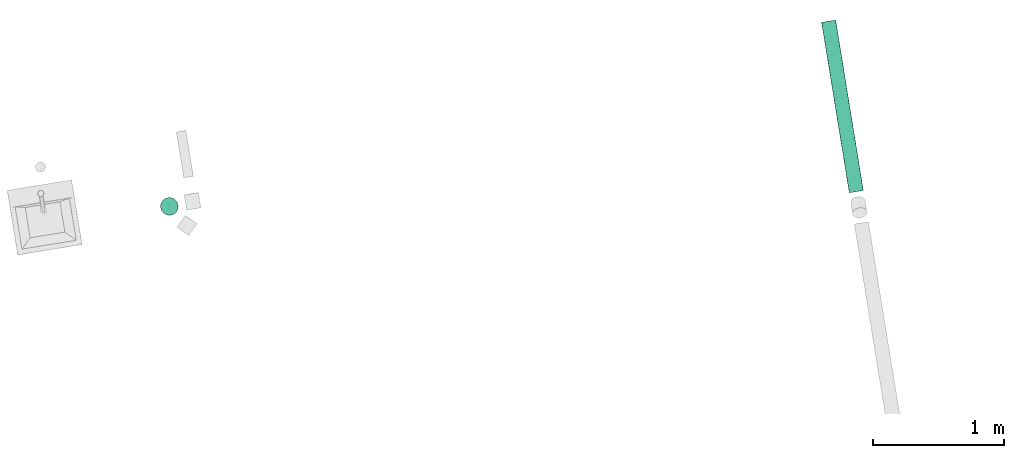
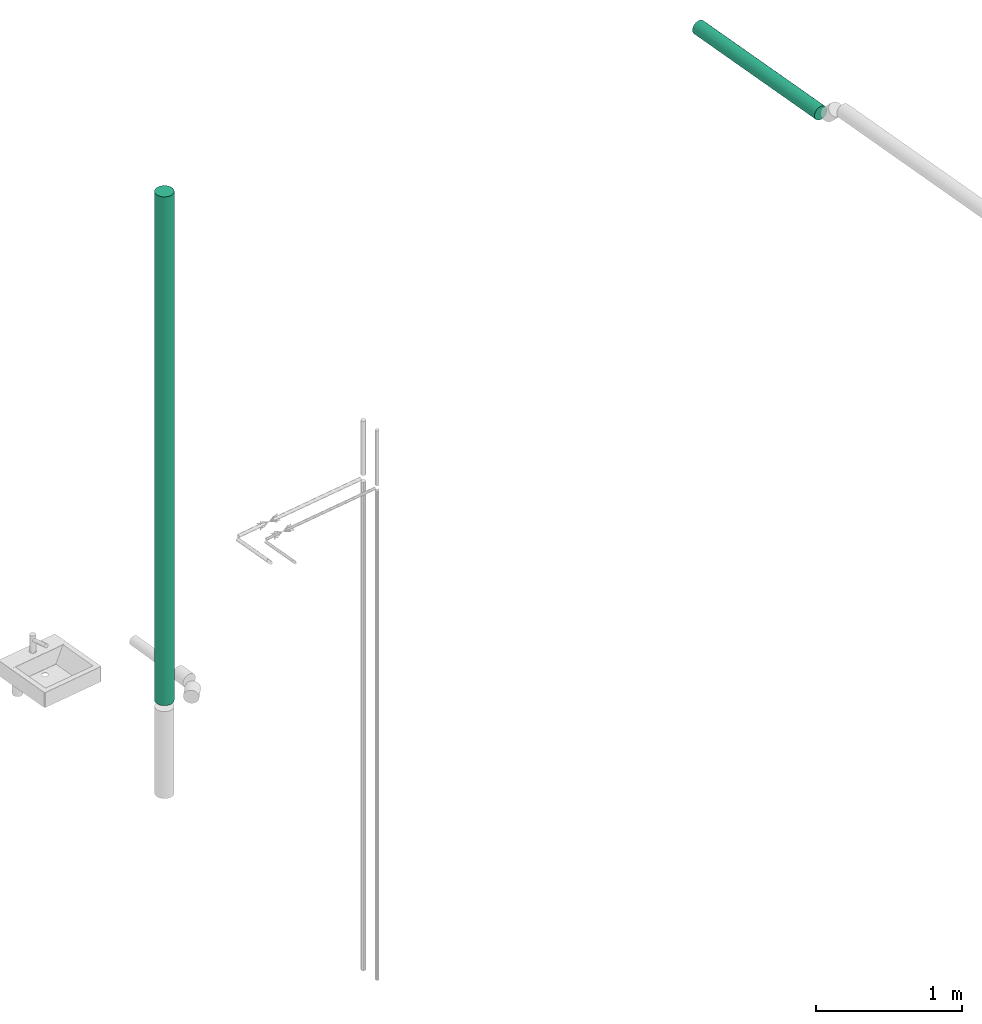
# One storey, part 9 of 10: 2 flow segments.
"""IFC2X3 building model written with IfcOpenShell, lengths in millimetres."""

from ifc_helpers import new_model, entity, si_unit, converted_unit, derived_unit, direction, frame, origin, origin_with_axes, place, context, subcontext, project, spatial, faceted_brep, type_object, element, save


model = new_model("IFC2X3")

# Units and contexts
model_context = context("Model", 3, precision=0.01, world=origin(), true_north=direction((6.12323399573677e-17, 1.0)))
plan_context = context("Plan", 3, precision=1e-05, world=origin_with_axes())
body_context = subcontext(model_context, "Body", "Model", "MODEL_VIEW")
ifc_project = project(units=[converted_unit("PLANEANGLEUNIT", "DEGREE", entity("IfcPositiveLengthMeasure", 0.0174532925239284), si_unit("PLANEANGLEUNIT", "RADIAN"), dimensions=[0, 0, 0, 0, 0, 0, 0]), si_unit("AREAUNIT", "SQUARE_METRE"), si_unit("LENGTHUNIT", "METRE", prefix="MILLI"), si_unit("MASSUNIT", "GRAM", prefix="KILO"), si_unit("POWERUNIT", "WATT"), si_unit("PRESSUREUNIT", "PASCAL", prefix="KILO"), si_unit("FORCEUNIT", "NEWTON", prefix="KILO"), si_unit("ELECTRICVOLTAGEUNIT", "VOLT"), si_unit("ELECTRICCURRENTUNIT", "AMPERE"), si_unit("THERMODYNAMICTEMPERATUREUNIT", "DEGREE_CELSIUS"), si_unit("TIMEUNIT", "SECOND"), si_unit("VOLUMEUNIT", "CUBIC_METRE"), derived_unit("LINEARVELOCITYUNIT", [(si_unit("LENGTHUNIT", "METRE"), 1), (si_unit("TIMEUNIT", "SECOND"), -1)]), derived_unit("VOLUMETRICFLOWRATEUNIT", [(si_unit("VOLUMEUNIT", "CUBIC_METRE"), 1), (si_unit("TIMEUNIT", "SECOND"), -1)]), derived_unit("THERMALTRANSMITTANCEUNIT", [(si_unit("POWERUNIT", "WATT"), 1), (si_unit("THERMODYNAMICTEMPERATUREUNIT", "KELVIN"), -1), (si_unit("AREAUNIT", "SQUARE_METRE"), -1)]), derived_unit("SOUNDPRESSUREUNIT", [(si_unit("PRESSUREUNIT", "PASCAL"), 1)])], contexts=[model_context, plan_context])

# Site, building, storey
site_placement = place(None, frame((-0.000710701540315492, 0.00438415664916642, 0.0), z_axis=(0.0, 0.0, 1.0), x_axis=(-0.160236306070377, 0.987078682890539, 0.0)))
site = spatial("IfcSite", under=ifc_project, at=site_placement, Name="Default", CompositionType="ELEMENT")
building_placement = place(site_placement, origin_with_axes())
building = spatial("IfcBuilding", under=site, at=building_placement, CompositionType="ELEMENT")
storey_placement = place(building_placement, frame((0.0, 0.0, 50999.9999999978), z_axis=(0.0, 0.0, 1.0), x_axis=(1.0, 0.0, 0.0)))
storey = spatial("IfcBuildingStorey", under=building, at=storey_placement, Name="Nivå D", CompositionType="ELEMENT", Elevation=50999.9999999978)

# Flow segments
pipe_segment_type_1 = type_object("IfcPipeSegmentType", Name="Pipe Types:MA", PredefinedType="NOTDEFINED")
flow_segment_1_placement = place(storey_placement, origin_with_axes())
element("IfcFlowSegment", 1, at=flow_segment_1_placement, inside=storey, type_object=pipe_segment_type_1, Name="Pipe Types:MA", ObjectType="Pipe Types:MA", context=body_context, shape_type="Brep", body=[
    faceted_brep([(779489.830479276, -594796.800735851, 4200.0), (779490.855955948, -594785.079483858, 4200.0), (779490.855955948, -594785.079483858, -39.9999999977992), (779489.830479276, -594796.800735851, -39.9999999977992), (779489.830479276, -594773.358231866, 4200.0), (779489.830479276, -594773.358231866, -39.9999999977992), (779486.785207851, -594761.993124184, 4200.0), (779486.785207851, -594761.993124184, -39.9999999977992), (779481.812670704, -594751.329483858, 4200.0), (779481.812670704, -594751.329483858, -39.9999999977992), (779475.063955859, -594741.691320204, 4200.0), (779475.063955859, -594741.691320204, -39.9999999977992), (779466.744119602, -594733.371483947, 4200.0), (779466.744119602, -594733.371483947, -39.9999999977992), (779457.105955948, -594726.622769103, 4200.0), (779457.105955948, -594726.622769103, -39.9999999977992), (779446.442315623, -594721.650231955, 4200.0), (779446.442315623, -594721.650231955, -39.9999999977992), (779435.077207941, -594718.60496053, 4200.0), (779435.077207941, -594718.60496053, -39.9999999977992), (779423.355955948, -594717.579483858, 4200.0), (779423.355955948, -594717.579483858, -39.9999999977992), (779411.634703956, -594718.60496053, 4200.0), (779411.634703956, -594718.60496053, -39.9999999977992), (779400.269596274, -594721.650231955, 4200.0), (779400.269596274, -594721.650231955, -39.9999999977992), (779389.605955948, -594726.622769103, 4200.0), (779389.605955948, -594726.622769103, -39.9999999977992), (779379.967792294, -594733.371483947, 4200.0), (779379.967792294, -594733.371483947, -39.9999999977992), (779371.647956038, -594741.691320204, 4200.0), (779371.647956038, -594741.691320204, -39.9999999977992), (779364.899241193, -594751.329483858, 4200.0), (779364.899241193, -594751.329483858, -39.9999999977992), (779359.926704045, -594761.993124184, 4200.0), (779359.926704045, -594761.993124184, -39.9999999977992), (779356.88143262, -594773.358231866, 4200.0), (779356.88143262, -594773.358231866, -39.9999999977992), (779355.855955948, -594785.079483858, 4200.0), (779355.855955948, -594785.079483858, -39.9999999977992), (779356.88143262, -594796.80073585, 4200.0), (779356.88143262, -594796.800735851, -39.9999999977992), (779359.926704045, -594808.165843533, 4200.0), (779359.926704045, -594808.165843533, -39.9999999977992), (779364.899241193, -594818.829483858, 4200.0), (779364.899241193, -594818.829483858, -39.9999999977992), (779371.647956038, -594828.467647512, 4200.0), (779371.647956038, -594828.467647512, -39.9999999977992), (779379.967792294, -594836.787483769, 4200.0), (779379.967792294, -594836.787483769, -39.9999999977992), (779389.605955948, -594843.536198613, 4200.0), (779389.605955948, -594843.536198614, -39.9999999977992), (779400.269596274, -594848.508735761, 4200.0), (779400.269596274, -594848.508735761, -39.9999999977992), (779411.634703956, -594851.554007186, 4200.0), (779411.634703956, -594851.554007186, -39.9999999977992), (779423.355955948, -594852.579483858, 4200.0), (779423.355955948, -594852.579483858, -39.9999999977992), (779435.077207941, -594851.554007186, 4200.0), (779435.077207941, -594851.554007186, -39.9999999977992), (779446.442315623, -594848.508735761, 4200.0), (779446.442315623, -594848.508735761, -39.9999999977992), (779457.105955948, -594843.536198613, 4200.0), (779457.105955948, -594843.536198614, -39.9999999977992), (779466.744119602, -594836.787483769, 4200.0), (779466.744119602, -594836.787483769, -39.9999999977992), (779475.063955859, -594828.467647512, 4200.0), (779475.063955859, -594828.467647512, -39.9999999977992), (779481.812670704, -594818.829483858, 4200.0), (779481.812670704, -594818.829483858, -39.9999999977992), (779486.785207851, -594808.165843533, 4200.0), (779486.785207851, -594808.165843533, -39.9999999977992)], [[[0, 1, 2, 3]], [[1, 4, 5, 2]], [[4, 6, 7, 5]], [[6, 8, 9, 7]], [[8, 10, 11, 9]], [[10, 12, 13, 11]], [[12, 14, 15, 13]], [[14, 16, 17, 15]], [[16, 18, 19, 17]], [[18, 20, 21, 19]], [[20, 22, 23, 21]], [[22, 24, 25, 23]], [[24, 26, 27, 25]], [[26, 28, 29, 27]], [[28, 30, 31, 29]], [[30, 32, 33, 31]], [[32, 34, 35, 33]], [[34, 36, 37, 35]], [[36, 38, 39, 37]], [[38, 40, 41, 39]], [[40, 42, 43, 41]], [[42, 44, 45, 43]], [[44, 46, 47, 45]], [[46, 48, 49, 47]], [[48, 50, 51, 49]], [[50, 52, 53, 51]], [[52, 54, 55, 53]], [[54, 56, 57, 55]], [[56, 58, 59, 57]], [[58, 60, 61, 59]], [[60, 62, 63, 61]], [[62, 64, 65, 63]], [[64, 66, 67, 65]], [[66, 68, 69, 67]], [[68, 70, 71, 69]], [[70, 0, 3, 71]], [[3, 2, 5, 7, 9, 11, 13, 15, 17, 19, 21, 23, 25, 27, 29, 31, 33, 35, 37, 39, 41, 43, 45, 47, 49, 51, 53, 55, 57, 59, 61, 63, 65, 67, 69, 71]], [[70, 68, 66, 64, 62, 60, 58, 56, 54, 52, 50, 48, 46, 44, 42, 40, 38, 36, 34, 32, 30, 28, 26, 24, 22, 20, 18, 16, 14, 12, 10, 8, 6, 4, 1, 0]]], orient=[[False], [False], [False], [False], [False], [False], [False], [False], [False], [False], [False], [False], [False], [False], [False], [False], [False], [False], [False], [False], [False], [False], [False], [False], [False], [False], [False], [False], [False], [False], [False], [False], [False], [False], [False], [False], [False], [False]]),
])
pipe_segment_type_2 = type_object("IfcPipeSegmentType", Name="Pipe Types:Rustfrie stålrør", PredefinedType="NOTDEFINED")
flow_segment_2_placement = place(storey_placement, origin_with_axes())
element("IfcFlowSegment", 2, at=flow_segment_2_placement, inside=storey, type_object=pipe_segment_type_2, Name="Pipe Types:Rustfrie stålrør", ObjectType="Pipe Types:Rustfrie stålrør", context=body_context, shape_type="Brep", body=[
    faceted_brep([(780012.619644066, -599919.528306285, 2940.4493502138), (780012.619644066, -599918.692732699, 2950.0), (778695.132039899, -599918.692732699, 2950.0), (778695.132039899, -599919.528306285, 2940.4493502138), (780012.619644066, -599919.528306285, 2959.5506497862), (778695.132039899, -599919.528306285, 2959.5506497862), (780012.619644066, -599922.009638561, 2968.8111079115), (778695.132039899, -599922.009638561, 2968.8111079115), (780012.619644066, -599926.061335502, 2977.5000000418), (778695.132039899, -599926.061335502, 2977.5000000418), (780012.619644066, -599931.560288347, 2985.3533185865), (778695.132039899, -599931.560288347, 2985.3533185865), (780012.619644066, -599938.339414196, 2992.13244443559), (778695.132039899, -599938.339414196, 2992.13244443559), (780012.619644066, -599946.192732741, 2997.63139728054), (778695.132039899, -599946.192732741, 2997.63139728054), (780012.619644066, -599954.881624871, 3001.68309422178), (778695.132039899, -599954.881624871, 3001.68309422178), (780012.619644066, -599964.142082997, 3004.164426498), (778695.132039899, -599964.142082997, 3004.164426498), (780012.619644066, -599973.692732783, 3005.0000000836), (778695.132039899, -599973.692732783, 3005.0000000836), (780012.619644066, -599983.243382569, 3004.164426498), (778695.132039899, -599983.243382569, 3004.164426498), (780012.619644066, -599992.503840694, 3001.68309422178), (778695.132039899, -599992.503840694, 3001.68309422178), (780012.619644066, -600001.192732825, 2997.63139728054), (778695.132039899, -600001.192732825, 2997.63139728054), (780012.619644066, -600009.046051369, 2992.13244443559), (778695.132039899, -600009.046051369, 2992.13244443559), (780012.619644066, -600015.825177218, 2985.3533185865), (778695.132039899, -600015.825177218, 2985.3533185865), (780012.619644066, -600021.324130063, 2977.5000000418), (778695.132039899, -600021.324130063, 2977.5000000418), (780012.619644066, -600025.375827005, 2968.8111079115), (778695.132039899, -600025.375827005, 2968.8111079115), (780012.619644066, -600027.857159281, 2959.5506497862), (778695.132039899, -600027.857159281, 2959.5506497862), (780012.619644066, -600028.692732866, 2950.0), (778695.132039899, -600028.692732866, 2950.0), (780012.619644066, -600027.857159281, 2940.4493502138), (778695.132039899, -600027.857159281, 2940.4493502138), (780012.619644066, -600025.375827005, 2931.1888920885), (778695.132039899, -600025.375827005, 2931.1888920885), (780012.619644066, -600021.324130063, 2922.4999999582), (778695.132039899, -600021.324130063, 2922.4999999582), (780012.619644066, -600015.825177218, 2914.6466814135), (778695.132039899, -600015.825177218, 2914.6466814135), (780012.619644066, -600009.046051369, 2907.86755556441), (778695.132039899, -600009.046051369, 2907.86755556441), (780012.619644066, -600001.192732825, 2902.36860271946), (778695.132039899, -600001.192732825, 2902.36860271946), (780012.619644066, -599992.503840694, 2898.31690577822), (778695.132039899, -599992.503840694, 2898.31690577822), (780012.619644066, -599983.243382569, 2895.835573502), (778695.132039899, -599983.243382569, 2895.835573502), (780012.619644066, -599973.692732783, 2894.9999999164), (778695.132039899, -599973.692732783, 2894.9999999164), (780012.619644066, -599964.142082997, 2895.835573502), (778695.132039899, -599964.142082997, 2895.835573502), (780012.619644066, -599954.881624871, 2898.31690577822), (778695.132039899, -599954.881624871, 2898.31690577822), (780012.619644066, -599946.192732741, 2902.36860271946), (778695.132039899, -599946.192732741, 2902.36860271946), (780012.619644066, -599938.339414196, 2907.86755556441), (778695.132039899, -599938.339414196, 2907.86755556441), (780012.619644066, -599931.560288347, 2914.6466814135), (778695.132039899, -599931.560288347, 2914.6466814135), (780012.619644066, -599926.061335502, 2922.4999999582), (778695.132039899, -599926.061335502, 2922.4999999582), (780012.619644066, -599922.009638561, 2931.1888920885), (778695.132039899, -599922.009638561, 2931.1888920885)], [[[0, 1, 2, 3]], [[1, 4, 5, 2]], [[4, 6, 7, 5]], [[6, 8, 9, 7]], [[8, 10, 11, 9]], [[10, 12, 13, 11]], [[12, 14, 15, 13]], [[14, 16, 17, 15]], [[16, 18, 19, 17]], [[18, 20, 21, 19]], [[20, 22, 23, 21]], [[22, 24, 25, 23]], [[24, 26, 27, 25]], [[26, 28, 29, 27]], [[28, 30, 31, 29]], [[30, 32, 33, 31]], [[32, 34, 35, 33]], [[34, 36, 37, 35]], [[36, 38, 39, 37]], [[38, 40, 41, 39]], [[40, 42, 43, 41]], [[42, 44, 45, 43]], [[44, 46, 47, 45]], [[46, 48, 49, 47]], [[48, 50, 51, 49]], [[50, 52, 53, 51]], [[52, 54, 55, 53]], [[54, 56, 57, 55]], [[56, 58, 59, 57]], [[58, 60, 61, 59]], [[60, 62, 63, 61]], [[62, 64, 65, 63]], [[64, 66, 67, 65]], [[66, 68, 69, 67]], [[68, 70, 71, 69]], [[70, 0, 3, 71]], [[3, 2, 5, 7, 9, 11, 13, 15, 17, 19, 21, 23, 25, 27, 29, 31, 33, 35, 37, 39, 41, 43, 45, 47, 49, 51, 53, 55, 57, 59, 61, 63, 65, 67, 69, 71]], [[70, 68, 66, 64, 62, 60, 58, 56, 54, 52, 50, 48, 46, 44, 42, 40, 38, 36, 34, 32, 30, 28, 26, 24, 22, 20, 18, 16, 14, 12, 10, 8, 6, 4, 1, 0]]], orient=[[False], [False], [False], [False], [False], [False], [False], [False], [False], [False], [False], [False], [False], [False], [False], [False], [False], [False], [False], [False], [False], [False], [False], [False], [False], [False], [False], [False], [False], [False], [False], [False], [False], [False], [False], [False], [False], [False]]),
])

save(model, "model.ifc")
